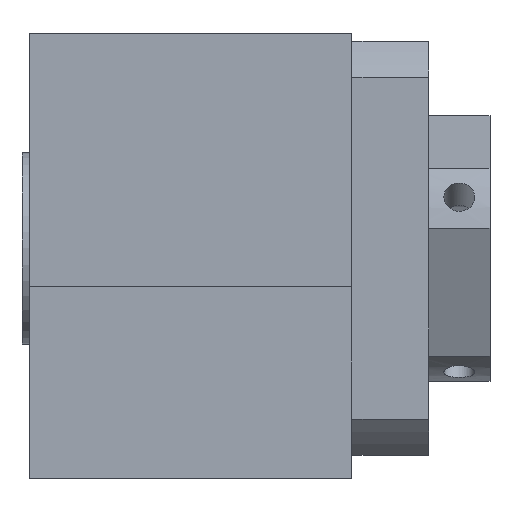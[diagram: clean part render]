
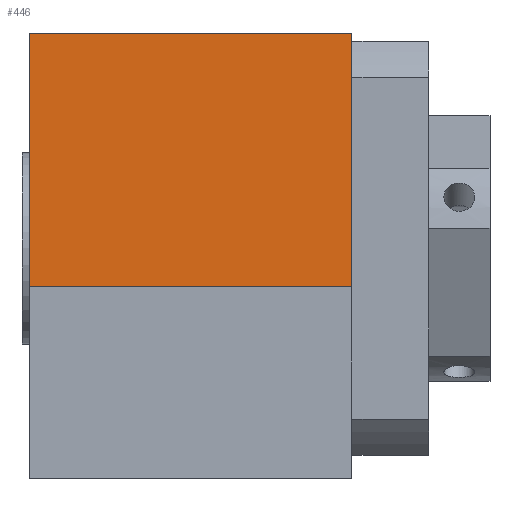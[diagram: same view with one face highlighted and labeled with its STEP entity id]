
A CAD part, front view. The second image highlights one B-rep face of the part: STEP entity #446.
In plain terms, the highlighted planar face has unit normal (0, -1, 0).
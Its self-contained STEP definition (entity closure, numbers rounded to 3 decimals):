
#185=PLANE('',#1542);
#219=FACE_OUTER_BOUND('',#786,.T.);
#275=LINE('',#2449,#353);
#283=LINE('',#2469,#361);
#294=LINE('',#2499,#372);
#301=LINE('',#2513,#379);
#353=VECTOR('',#1821,1.);
#361=VECTOR('',#1837,1.);
#372=VECTOR('',#1864,1.);
#379=VECTOR('',#1879,1.);
#446=ADVANCED_FACE('',(#219),#185,.F.);
#786=EDGE_LOOP('',(#1048,#1049,#1050,#1051));
#1048=ORIENTED_EDGE('',*,*,#1383,.F.);
#1049=ORIENTED_EDGE('',*,*,#1368,.T.);
#1050=ORIENTED_EDGE('',*,*,#1358,.T.);
#1051=ORIENTED_EDGE('',*,*,#1390,.F.);
#1220=VERTEX_POINT('',#2450);
#1221=VERTEX_POINT('',#2451);
#1228=VERTEX_POINT('',#2470);
#1239=VERTEX_POINT('',#2500);
#1358=EDGE_CURVE('LINE',#1220,#1221,#275,.T.);
#1368=EDGE_CURVE('LINE',#1228,#1220,#283,.T.);
#1383=EDGE_CURVE('LINE',#1228,#1239,#294,.T.);
#1390=EDGE_CURVE('LINE',#1239,#1221,#301,.T.);
#1542=AXIS2_PLACEMENT_3D('',#2514,#1880,#1881);
#1821=DIRECTION('',(1.,0.,0.));
#1837=DIRECTION('',(0.,0.,-1.));
#1864=DIRECTION('',(1.,0.,0.));
#1879=DIRECTION('',(0.,0.,-1.));
#1880=DIRECTION('',(0.,1.,0.));
#1881=DIRECTION('',(0.,0.,-1.));
#2449=CARTESIAN_POINT('',(21.,-28.,25.));
#2450=CARTESIAN_POINT('',(0.,-28.,25.));
#2451=CARTESIAN_POINT('',(42.,-28.,25.));
#2469=CARTESIAN_POINT('',(0.,-28.,41.5));
#2470=CARTESIAN_POINT('',(0.,-28.,58.));
#2499=CARTESIAN_POINT('',(21.,-28.,58.));
#2500=CARTESIAN_POINT('',(42.,-28.,58.));
#2513=CARTESIAN_POINT('',(42.,-28.,41.5));
#2514=CARTESIAN_POINT('',(0.,-28.,25.));
